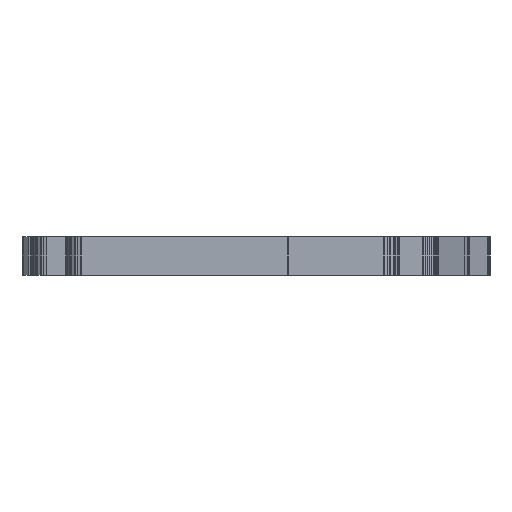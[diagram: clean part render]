
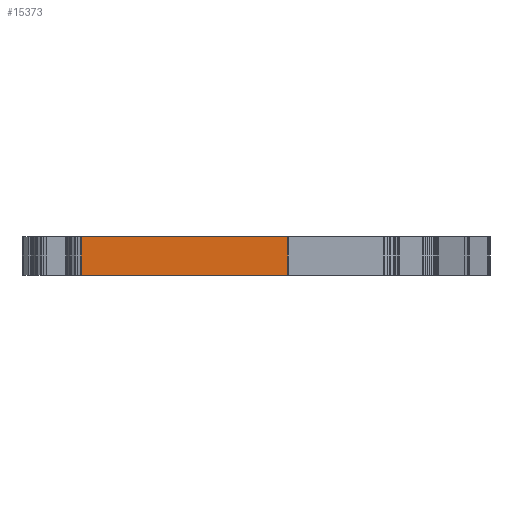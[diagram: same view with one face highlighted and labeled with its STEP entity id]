
A CAD part, left-side view. The second image highlights one B-rep face of the part: STEP entity #15373.
In plain terms, the highlighted planar face has unit normal (-1, 0, 0).
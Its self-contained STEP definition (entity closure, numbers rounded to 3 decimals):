
#44 = PLANE('',#45);
#45 = AXIS2_PLACEMENT_3D('',#46,#47,#48);
#46 = CARTESIAN_POINT('',(-6.07,-64.068,-6.6));
#47 = DIRECTION('',(0.707,-0.707,0.));
#48 = DIRECTION('',(-0.707,-0.707,0.));
#72 = PLANE('',#73);
#73 = AXIS2_PLACEMENT_3D('',#74,#75,#76);
#74 = CARTESIAN_POINT('',(71.068,-53.202,3.5));
#75 = DIRECTION('',(0.,0.,1.));
#76 = DIRECTION('',(1.,0.,-0.));
#126 = PLANE('',#127);
#127 = AXIS2_PLACEMENT_3D('',#128,#129,#130);
#128 = CARTESIAN_POINT('',(71.068,-53.202,-6.6));
#129 = DIRECTION('',(0.,0.,1.));
#130 = DIRECTION('',(1.,0.,-0.));
#141 = EDGE_CURVE('',#142,#144,#146,.T.);
#142 = VERTEX_POINT('',#143);
#143 = CARTESIAN_POINT('',(-6.07,-64.068,-6.6));
#144 = VERTEX_POINT('',#145);
#145 = CARTESIAN_POINT('',(-6.07,-64.068,3.5));
#146 = SURFACE_CURVE('',#147,(#151,#158),.PCURVE_S1.);
#147 = LINE('',#148,#149);
#148 = CARTESIAN_POINT('',(-6.07,-64.068,-6.6));
#149 = VECTOR('',#150,1.);
#150 = DIRECTION('',(0.,0.,1.));
#151 = PCURVE('',#44,#152);
#152 = DEFINITIONAL_REPRESENTATION('',(#153),#157);
#153 = LINE('',#154,#155);
#154 = CARTESIAN_POINT('',(0.,0.));
#155 = VECTOR('',#156,1.);
#156 = DIRECTION('',(0.,-1.));
#157 = ( GEOMETRIC_REPRESENTATION_CONTEXT(2) 
PARAMETRIC_REPRESENTATION_CONTEXT() REPRESENTATION_CONTEXT('2D SPACE',''
  ) );
#158 = PCURVE('',#159,#164);
#159 = PLANE('',#160);
#160 = AXIS2_PLACEMENT_3D('',#161,#162,#163);
#161 = CARTESIAN_POINT('',(-6.07,-9.721,-6.6));
#162 = DIRECTION('',(1.,0.,-0.));
#163 = DIRECTION('',(0.,-1.,0.));
#164 = DEFINITIONAL_REPRESENTATION('',(#165),#169);
#165 = LINE('',#166,#167);
#166 = CARTESIAN_POINT('',(54.347,0.));
#167 = VECTOR('',#168,1.);
#168 = DIRECTION('',(0.,-1.));
#169 = ( GEOMETRIC_REPRESENTATION_CONTEXT(2) 
PARAMETRIC_REPRESENTATION_CONTEXT() REPRESENTATION_CONTEXT('2D SPACE',''
  ) );
#4911 = VERTEX_POINT('',#4912);
#4912 = CARTESIAN_POINT('',(-6.07,-9.721,-6.6));
#4926 = PLANE('',#4927);
#4927 = AXIS2_PLACEMENT_3D('',#4928,#4929,#4930);
#4928 = CARTESIAN_POINT('',(-6.026,-9.5,-6.6));
#4929 = DIRECTION('',(0.981,-0.195,0.));
#4930 = DIRECTION('',(-0.195,-0.981,0.));
#4938 = EDGE_CURVE('',#4911,#142,#4939,.T.);
#4939 = SURFACE_CURVE('',#4940,(#4944,#4951),.PCURVE_S1.);
#4940 = LINE('',#4941,#4942);
#4941 = CARTESIAN_POINT('',(-6.07,-9.721,-6.6));
#4942 = VECTOR('',#4943,1.);
#4943 = DIRECTION('',(0.,-1.,0.));
#4944 = PCURVE('',#126,#4945);
#4945 = DEFINITIONAL_REPRESENTATION('',(#4946),#4950);
#4946 = LINE('',#4947,#4948);
#4947 = CARTESIAN_POINT('',(-77.138,43.481));
#4948 = VECTOR('',#4949,1.);
#4949 = DIRECTION('',(0.,-1.));
#4950 = ( GEOMETRIC_REPRESENTATION_CONTEXT(2) 
PARAMETRIC_REPRESENTATION_CONTEXT() REPRESENTATION_CONTEXT('2D SPACE',''
  ) );
#4951 = PCURVE('',#159,#4952);
#4952 = DEFINITIONAL_REPRESENTATION('',(#4953),#4957);
#4953 = LINE('',#4954,#4955);
#4954 = CARTESIAN_POINT('',(0.,0.));
#4955 = VECTOR('',#4956,1.);
#4956 = DIRECTION('',(1.,0.));
#4957 = ( GEOMETRIC_REPRESENTATION_CONTEXT(2) 
PARAMETRIC_REPRESENTATION_CONTEXT() REPRESENTATION_CONTEXT('2D SPACE',''
  ) );
#8885 = VERTEX_POINT('',#8886);
#8886 = CARTESIAN_POINT('',(-6.07,-9.721,3.5));
#8907 = EDGE_CURVE('',#8885,#144,#8908,.T.);
#8908 = SURFACE_CURVE('',#8909,(#8913,#8920),.PCURVE_S1.);
#8909 = LINE('',#8910,#8911);
#8910 = CARTESIAN_POINT('',(-6.07,-9.721,3.5));
#8911 = VECTOR('',#8912,1.);
#8912 = DIRECTION('',(0.,-1.,0.));
#8913 = PCURVE('',#72,#8914);
#8914 = DEFINITIONAL_REPRESENTATION('',(#8915),#8919);
#8915 = LINE('',#8916,#8917);
#8916 = CARTESIAN_POINT('',(-77.138,43.481));
#8917 = VECTOR('',#8918,1.);
#8918 = DIRECTION('',(0.,-1.));
#8919 = ( GEOMETRIC_REPRESENTATION_CONTEXT(2) 
PARAMETRIC_REPRESENTATION_CONTEXT() REPRESENTATION_CONTEXT('2D SPACE',''
  ) );
#8920 = PCURVE('',#159,#8921);
#8921 = DEFINITIONAL_REPRESENTATION('',(#8922),#8926);
#8922 = LINE('',#8923,#8924);
#8923 = CARTESIAN_POINT('',(0.,-10.1));
#8924 = VECTOR('',#8925,1.);
#8925 = DIRECTION('',(1.,0.));
#8926 = ( GEOMETRIC_REPRESENTATION_CONTEXT(2) 
PARAMETRIC_REPRESENTATION_CONTEXT() REPRESENTATION_CONTEXT('2D SPACE',''
  ) );
#15373 = ADVANCED_FACE('',(#15374),#159,.F.);
#15374 = FACE_BOUND('',#15375,.F.);
#15375 = EDGE_LOOP('',(#15376,#15397,#15398,#15399));
#15376 = ORIENTED_EDGE('',*,*,#15377,.T.);
#15377 = EDGE_CURVE('',#4911,#8885,#15378,.T.);
#15378 = SURFACE_CURVE('',#15379,(#15383,#15390),.PCURVE_S1.);
#15379 = LINE('',#15380,#15381);
#15380 = CARTESIAN_POINT('',(-6.07,-9.721,-6.6));
#15381 = VECTOR('',#15382,1.);
#15382 = DIRECTION('',(0.,0.,1.));
#15383 = PCURVE('',#159,#15384);
#15384 = DEFINITIONAL_REPRESENTATION('',(#15385),#15389);
#15385 = LINE('',#15386,#15387);
#15386 = CARTESIAN_POINT('',(0.,0.));
#15387 = VECTOR('',#15388,1.);
#15388 = DIRECTION('',(0.,-1.));
#15389 = ( GEOMETRIC_REPRESENTATION_CONTEXT(2) 
PARAMETRIC_REPRESENTATION_CONTEXT() REPRESENTATION_CONTEXT('2D SPACE',''
  ) );
#15390 = PCURVE('',#4926,#15391);
#15391 = DEFINITIONAL_REPRESENTATION('',(#15392),#15396);
#15392 = LINE('',#15393,#15394);
#15393 = CARTESIAN_POINT('',(0.225,0.));
#15394 = VECTOR('',#15395,1.);
#15395 = DIRECTION('',(0.,-1.));
#15396 = ( GEOMETRIC_REPRESENTATION_CONTEXT(2) 
PARAMETRIC_REPRESENTATION_CONTEXT() REPRESENTATION_CONTEXT('2D SPACE',''
  ) );
#15397 = ORIENTED_EDGE('',*,*,#8907,.T.);
#15398 = ORIENTED_EDGE('',*,*,#141,.F.);
#15399 = ORIENTED_EDGE('',*,*,#4938,.F.);
